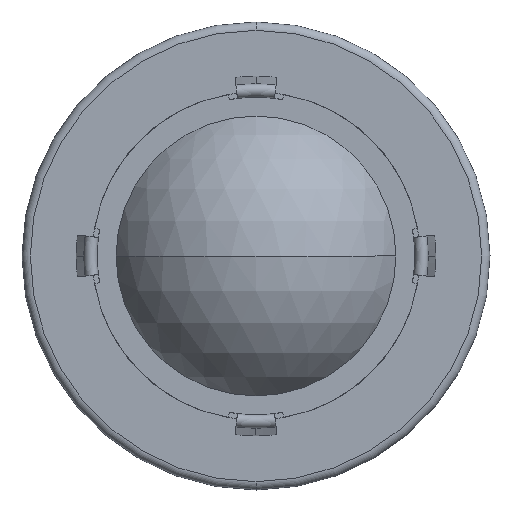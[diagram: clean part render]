
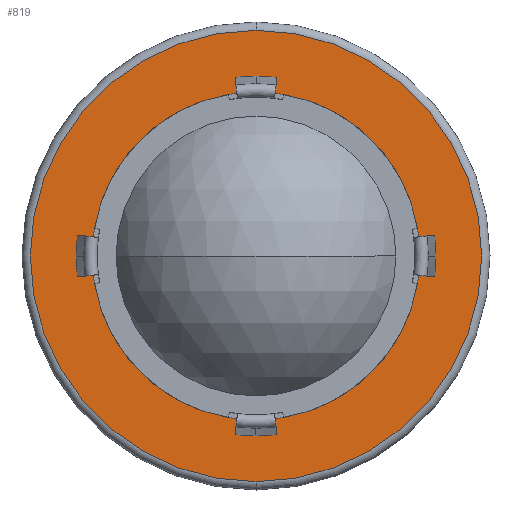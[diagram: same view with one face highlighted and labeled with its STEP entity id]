
A CAD part, front view. The second image highlights one B-rep face of the part: STEP entity #819.
In plain terms, the highlighted planar face has unit normal (0, -1, 0).
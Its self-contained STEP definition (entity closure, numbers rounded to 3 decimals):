
#54 = EDGE_LOOP ( 'NONE', ( #2227, #1320 ) ) ;
#93 = DIRECTION ( 'NONE',  ( 0., 0., 1. ) ) ;
#116 = ORIENTED_EDGE ( 'NONE', *, *, #2310, .F. ) ;
#136 = CARTESIAN_POINT ( 'NONE',  ( -19.6, 14., 0. ) ) ;
#156 = FACE_OUTER_BOUND ( 'NONE', #2109, .T. ) ;
#195 = EDGE_CURVE ( 'NONE', #749, #1494, #1988, .T. ) ;
#501 = CARTESIAN_POINT ( 'NONE',  ( 0., 14., -19.6 ) ) ;
#536 = DIRECTION ( 'NONE',  ( 0., 1., 0. ) ) ;
#722 = DIRECTION ( 'NONE',  ( 0., 1., 0. ) ) ;
#749 = VERTEX_POINT ( 'NONE', #2680 ) ;
#783 = AXIS2_PLACEMENT_3D ( 'NONE', #1814, #536, #2039 ) ;
#819 = ADVANCED_FACE ( 'NONE', ( #2309, #156 ), #1623, .T. ) ;
#846 = CARTESIAN_POINT ( 'NONE',  ( 0., 14., 0. ) ) ;
#849 = CARTESIAN_POINT ( 'NONE',  ( 0., 14., -27. ) ) ;
#994 = DIRECTION ( 'NONE',  ( 0., 0., -1. ) ) ;
#1057 = DIRECTION ( 'NONE',  ( 0., 0., 1. ) ) ;
#1102 = CIRCLE ( 'NONE', #1161, 27. ) ;
#1113 = CARTESIAN_POINT ( 'NONE',  ( 0., 14., 19.6 ) ) ;
#1114 = AXIS2_PLACEMENT_3D ( 'NONE', #846, #2353, #1057 ) ;
#1161 = AXIS2_PLACEMENT_3D ( 'NONE', #2667, #1362, #93 ) ;
#1320 = ORIENTED_EDGE ( 'NONE', *, *, #2741, .T. ) ;
#1362 = DIRECTION ( 'NONE',  ( 0., 1., 0. ) ) ;
#1494 = VERTEX_POINT ( 'NONE', #849 ) ;
#1610 = AXIS2_PLACEMENT_3D ( 'NONE', #2014, #722, #2241 ) ;
#1623 = PLANE ( 'NONE',  #1678 ) ;
#1678 = AXIS2_PLACEMENT_3D ( 'NONE', #136, #2289, #994 ) ;
#1698 = VERTEX_POINT ( 'NONE', #1113 ) ;
#1791 = CIRCLE ( 'NONE', #1610, 19.6 ) ;
#1797 = EDGE_CURVE ( 'NONE', #1698, #2654, #1791, .T. ) ;
#1798 = ORIENTED_EDGE ( 'NONE', *, *, #195, .F. ) ;
#1814 = CARTESIAN_POINT ( 'NONE',  ( 0., 14., 0. ) ) ;
#1988 = CIRCLE ( 'NONE', #1114, 27. ) ;
#2014 = CARTESIAN_POINT ( 'NONE',  ( 0., 14., 0. ) ) ;
#2039 = DIRECTION ( 'NONE',  ( 0., 0., 1. ) ) ;
#2109 = EDGE_LOOP ( 'NONE', ( #1798, #116 ) ) ;
#2227 = ORIENTED_EDGE ( 'NONE', *, *, #1797, .T. ) ;
#2241 = DIRECTION ( 'NONE',  ( 0., 0., 1. ) ) ;
#2289 = DIRECTION ( 'NONE',  ( 0., -1., 0. ) ) ;
#2309 = FACE_BOUND ( 'NONE', #54, .T. ) ;
#2310 = EDGE_CURVE ( 'NONE', #1494, #749, #1102, .T. ) ;
#2353 = DIRECTION ( 'NONE',  ( 0., 1., 0. ) ) ;
#2638 = CIRCLE ( 'NONE', #783, 19.6 ) ;
#2654 = VERTEX_POINT ( 'NONE', #501 ) ;
#2667 = CARTESIAN_POINT ( 'NONE',  ( 0., 14., 0. ) ) ;
#2680 = CARTESIAN_POINT ( 'NONE',  ( 0., 14., 27. ) ) ;
#2741 = EDGE_CURVE ( 'NONE', #2654, #1698, #2638, .T. ) ;
